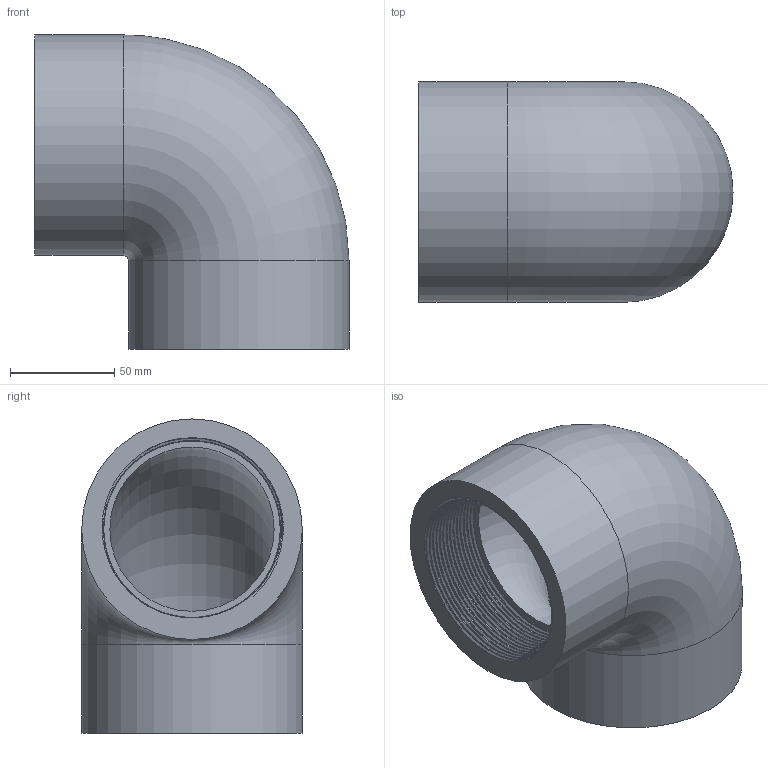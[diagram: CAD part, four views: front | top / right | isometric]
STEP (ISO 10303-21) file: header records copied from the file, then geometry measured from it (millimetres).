
FILE_DESCRIPTION(/* description */ ('PVC gomito a 90° filettato BSP femmina'),/* implementation_level */ '2;1');
FILE_NAME(/* name */ 'C:\Users\POLYPIPE\Desktop\DATASET INVENTOR\LIBRERIA EFFAST\RACCORDI 3DxWEB\RER\3D_RERGOE\3D_RERGOE090I.stp',/* time_stamp */ '2018-01-19T16:18:45+01:00',/* author */ ('POLYPIPE'),/* organization */ ('Polypipe Italia s.r.l.'),/* preprocessor_version */ 'ST-DEVELOPER v16.1',/* originating_system */ 'Autodesk Inventor 2016',/* authorisation */ '');
FILE_SCHEMA (('CONFIG_CONTROL_DESIGN'));
Length unit declared in the file: millimetre
Products named in the file (1): 3D_RERGOE
Bounding box: 151 x 106 x 151 mm (x, y, z)
Volume: 631982.3 mm3; surface area: 122906.9 mm2
Topology: 1 solids, 1 shells, 22 faces, 48 edges, 30 vertices
Faces by surface type: bspline 10, plane 6, cylinder 4, torus 2
Full cylindrical faces by diameter (mm): 106 x2
Entity records: 11810 total; most frequent: CARTESIAN_POINT 11375, ORIENTED_EDGE 92, DIRECTION 60, EDGE_CURVE 44, EDGE_LOOP 30, VERTEX_POINT 30, AXIS2_PLACEMENT_3D 27, B_SPLINE_CURVE_WITH_KNOTS 24
